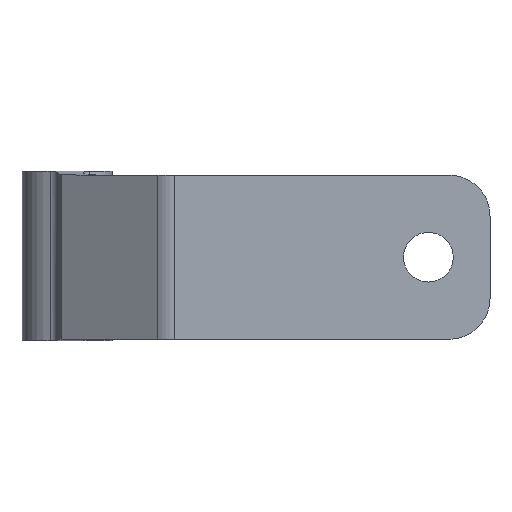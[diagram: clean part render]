
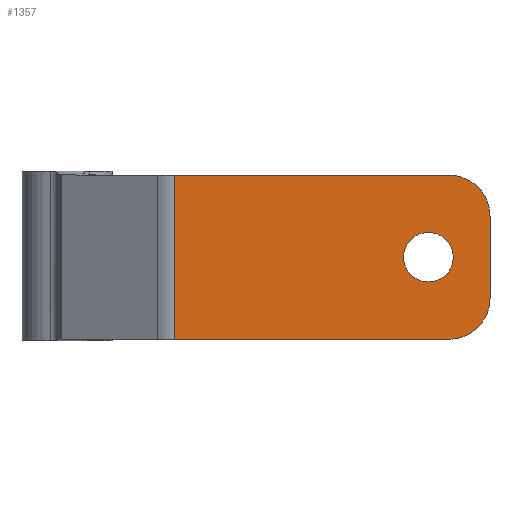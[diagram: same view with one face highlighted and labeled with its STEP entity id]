
A CAD part, front view. The second image highlights one B-rep face of the part: STEP entity #1357.
In plain terms, the highlighted planar face has unit normal (0, -1, 0).
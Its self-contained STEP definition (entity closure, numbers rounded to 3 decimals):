
#414=DIRECTION('',(-1.,0.,0.));
#415=VECTOR('',#414,66.757);
#416=CARTESIAN_POINT('',(93.,-32.,19.7));
#417=LINE('',#416,#415);
#437=CARTESIAN_POINT('',(88.,-32.,-0.3));
#438=DIRECTION('',(0.,-1.,0.));
#439=DIRECTION('',(-1.,0.,0.));
#440=AXIS2_PLACEMENT_3D('',#437,#438,#439);
#442=CARTESIAN_POINT('',(88.,-32.,-0.3));
#443=DIRECTION('',(0.,-1.,0.));
#444=DIRECTION('',(1.,0.,0.));
#445=AXIS2_PLACEMENT_3D('',#442,#443,#444);
#447=CARTESIAN_POINT('',(93.,-32.,-10.3));
#448=DIRECTION('',(0.,-1.,0.));
#449=DIRECTION('',(0.,0.,-1.));
#450=AXIS2_PLACEMENT_3D('',#447,#448,#449);
#452=DIRECTION('',(-1.,0.,0.));
#453=VECTOR('',#452,66.757);
#454=CARTESIAN_POINT('',(93.,-32.,-20.3));
#455=LINE('',#454,#453);
#456=CARTESIAN_POINT('',(93.,-32.,9.7));
#457=DIRECTION('',(0.,-1.,0.));
#458=DIRECTION('',(1.,0.,0.));
#459=AXIS2_PLACEMENT_3D('',#456,#457,#458);
#501=DIRECTION('',(0.,0.,1.));
#502=VECTOR('',#501,20.);
#503=CARTESIAN_POINT('',(103.,-32.,-10.3));
#504=LINE('',#503,#502);
#580=DIRECTION('',(0.,0.,-1.));
#581=VECTOR('',#580,40.);
#582=CARTESIAN_POINT('',(26.243,-32.,19.7));
#583=LINE('',#582,#581);
#624=CARTESIAN_POINT('',(26.243,-32.,19.7));
#626=VERTEX_POINT('',#624);
#631=CARTESIAN_POINT('',(26.243,-32.,-20.3));
#633=VERTEX_POINT('',#631);
#634=CARTESIAN_POINT('',(81.95,-32.,-0.3));
#635=CARTESIAN_POINT('',(94.05,-32.,-0.3));
#636=VERTEX_POINT('',#634);
#637=VERTEX_POINT('',#635);
#650=CARTESIAN_POINT('',(93.,-32.,-20.3));
#651=CARTESIAN_POINT('',(103.,-32.,-10.3));
#652=VERTEX_POINT('',#650);
#653=VERTEX_POINT('',#651);
#658=CARTESIAN_POINT('',(103.,-32.,9.7));
#659=CARTESIAN_POINT('',(93.,-32.,19.7));
#660=VERTEX_POINT('',#658);
#661=VERTEX_POINT('',#659);
#1334=CARTESIAN_POINT('',(26.243,-32.,19.7));
#1335=DIRECTION('',(0.,1.,0.));
#1336=DIRECTION('',(1.,0.,0.));
#1337=AXIS2_PLACEMENT_3D('',#1334,#1335,#1336);
#1338=PLANE('',#1337);
#1340=ORIENTED_EDGE('',*,*,#1339,.F.);
#1342=ORIENTED_EDGE('',*,*,#1341,.T.);
#1344=ORIENTED_EDGE('',*,*,#1343,.F.);
#1345=ORIENTED_EDGE('',*,*,#1304,.F.);
#1346=ORIENTED_EDGE('',*,*,#1324,.F.);
#1348=ORIENTED_EDGE('',*,*,#1347,.F.);
#1349=EDGE_LOOP('',(#1340,#1342,#1344,#1345,#1346,#1348));
#1350=FACE_OUTER_BOUND('',#1349,.F.);
#1352=ORIENTED_EDGE('',*,*,#1351,.T.);
#1354=ORIENTED_EDGE('',*,*,#1353,.T.);
#1355=EDGE_LOOP('',(#1352,#1354));
#1356=FACE_BOUND('',#1355,.F.);
#1357=ADVANCED_FACE('',(#1350,#1356),#1338,.F.);
#441=CIRCLE('',#440,6.05);
#446=CIRCLE('',#445,6.05);
#451=CIRCLE('',#450,10.);
#460=CIRCLE('',#459,10.);
#1304=EDGE_CURVE('',#661,#626,#417,.T.);
#1324=EDGE_CURVE('',#660,#661,#460,.T.);
#1339=EDGE_CURVE('',#652,#653,#451,.T.);
#1341=EDGE_CURVE('',#652,#633,#455,.T.);
#1343=EDGE_CURVE('',#626,#633,#583,.T.);
#1347=EDGE_CURVE('',#653,#660,#504,.T.);
#1351=EDGE_CURVE('',#636,#637,#441,.T.);
#1353=EDGE_CURVE('',#637,#636,#446,.T.);
